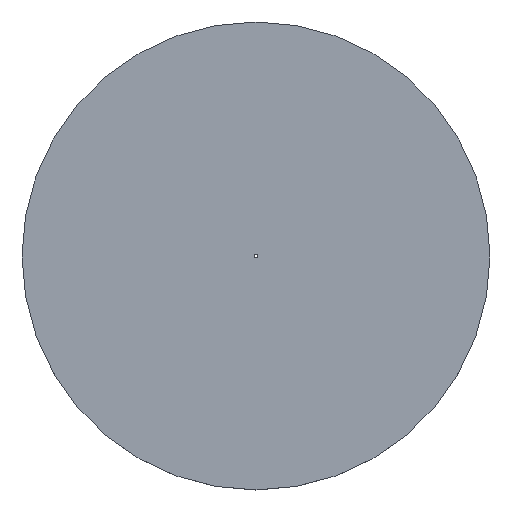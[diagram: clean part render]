
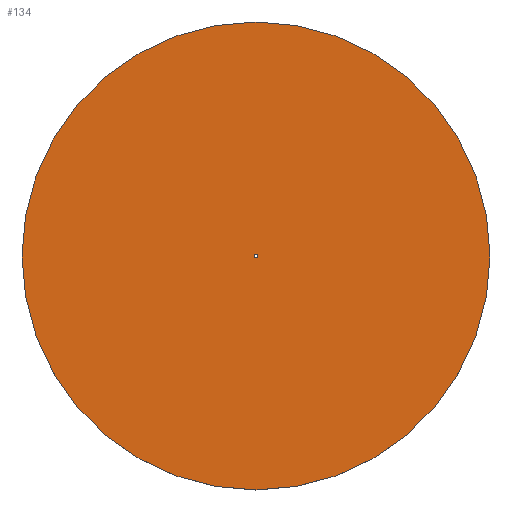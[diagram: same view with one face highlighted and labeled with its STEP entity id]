
A CAD part, top view. The second image highlights one B-rep face of the part: STEP entity #134.
In plain terms, the highlighted planar face has unit normal (0, 0, 1).
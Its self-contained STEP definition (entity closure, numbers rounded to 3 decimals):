
#29=CARTESIAN_POINT('',(0.,0.,0.7));
#30=DIRECTION('',(0.,0.,1.));
#31=DIRECTION('',(1.,0.,0.));
#32=AXIS2_PLACEMENT_3D('',#29,#30,#31);
#34=CARTESIAN_POINT('',(0.,0.,0.7));
#35=DIRECTION('',(0.,0.,1.));
#36=DIRECTION('',(-1.,0.,0.));
#37=AXIS2_PLACEMENT_3D('',#34,#35,#36);
#39=CARTESIAN_POINT('',(0.,0.,0.7));
#40=DIRECTION('',(0.,0.,1.));
#41=DIRECTION('',(1.,0.,0.));
#42=AXIS2_PLACEMENT_3D('',#39,#40,#41);
#44=CARTESIAN_POINT('',(0.,0.,0.7));
#45=DIRECTION('',(0.,0.,1.));
#46=DIRECTION('',(-1.,0.,0.));
#47=AXIS2_PLACEMENT_3D('',#44,#45,#46);
#61=CARTESIAN_POINT('',(6.35,0.,0.7));
#62=CARTESIAN_POINT('',(-6.35,0.,0.7));
#63=VERTEX_POINT('',#61);
#64=VERTEX_POINT('',#62);
#69=CARTESIAN_POINT('',(0.05,0.,0.7));
#70=CARTESIAN_POINT('',(-0.05,0.,0.7));
#71=VERTEX_POINT('',#69);
#72=VERTEX_POINT('',#70);
#119=CARTESIAN_POINT('',(0.,0.,0.7));
#120=DIRECTION('',(0.,0.,1.));
#121=DIRECTION('',(1.,0.,0.));
#122=AXIS2_PLACEMENT_3D('',#119,#120,#121);
#123=PLANE('',#122);
#124=ORIENTED_EDGE('',*,*,#99,.F.);
#125=ORIENTED_EDGE('',*,*,#113,.F.);
#126=EDGE_LOOP('',(#124,#125));
#127=FACE_OUTER_BOUND('',#126,.F.);
#129=ORIENTED_EDGE('',*,*,#128,.T.);
#131=ORIENTED_EDGE('',*,*,#130,.T.);
#132=EDGE_LOOP('',(#129,#131));
#133=FACE_BOUND('',#132,.F.);
#134=ADVANCED_FACE('',(#127,#133),#123,.T.);
#33=CIRCLE('',#32,6.35);
#38=CIRCLE('',#37,6.35);
#43=CIRCLE('',#42,0.05);
#48=CIRCLE('',#47,0.05);
#99=EDGE_CURVE('',#63,#64,#33,.T.);
#113=EDGE_CURVE('',#64,#63,#38,.T.);
#128=EDGE_CURVE('',#71,#72,#43,.T.);
#130=EDGE_CURVE('',#72,#71,#48,.T.);
